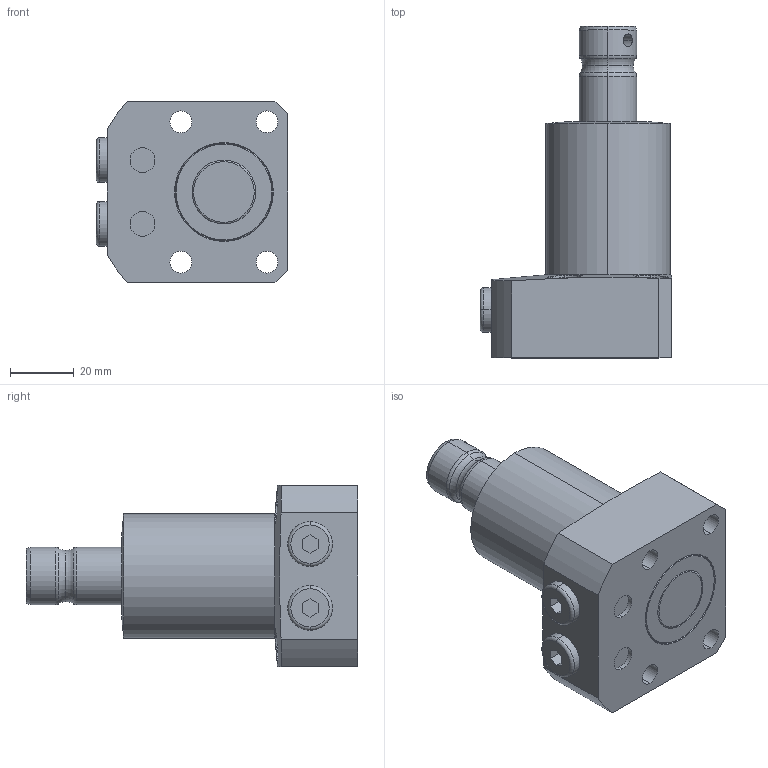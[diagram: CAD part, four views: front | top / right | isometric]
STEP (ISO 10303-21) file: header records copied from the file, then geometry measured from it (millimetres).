
FILE_DESCRIPTION (( 'STEP AP203' ), '1' );
FILE_NAME ('220801-CL.STEP', '2019-06-29T08:02:43', ( '微软用户' ), ( '微软中国' ), 'SwSTEP 2.0', 'SolidWorks 2014', '' );
FILE_SCHEMA (( 'CONFIG_CONTROL_DESIGN' ));
Length unit declared in the file: millimetre
Products named in the file (5): 葩璃 220801.02^220801-CL; 葩璃 230801.01^220801-CL; 葩璃 4BN-02WD^220801-CL; 葩璃 230801.04^220801-CL; 220801-CL
Assembly tree (5 placements, depth 2):
  220801-CL
    葩璃 220801.02^220801-CL
    葩璃 230801.01^220801-CL
    葩璃 4BN-02WD^220801-CL  x2
    葩璃 230801.04^220801-CL
Bounding box: 60 x 104 x 57 mm (x, y, z)
Volume: 154009.7 mm3; surface area: 27407.5 mm2
Topology: 5 solids, 5 shells, 140 faces, 294 edges, 182 vertices
Faces by surface type: cylinder 54, plane 46, torus 22, cone 18
Entity records: 4079 total; most frequent: CARTESIAN_POINT 988, DIRECTION 592, ORIENTED_EDGE 480, AXIS2_PLACEMENT_3D 250, EDGE_CURVE 240, VERTEX_POINT 150, EDGE_LOOP 138, CIRCLE 128
